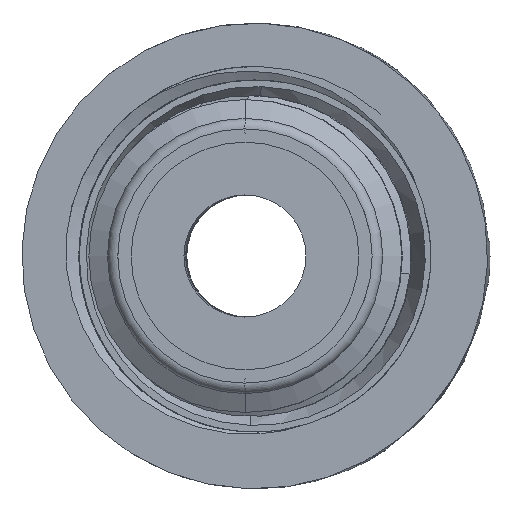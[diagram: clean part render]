
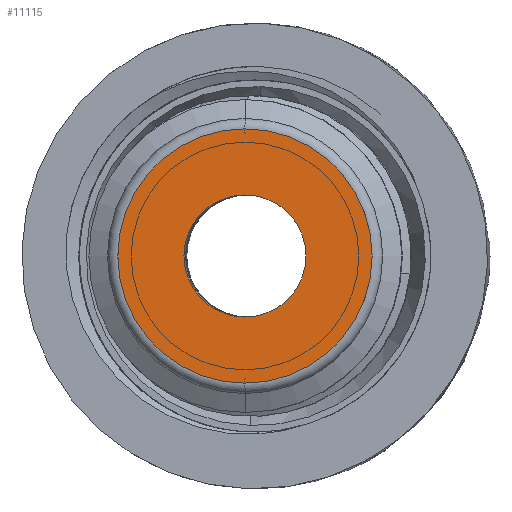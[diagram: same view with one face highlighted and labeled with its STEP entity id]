
A CAD part, left-side view. The second image highlights one B-rep face of the part: STEP entity #11115.
In plain terms, the highlighted planar face has unit normal (-1, 0.009, 0) as drawn and (1, 0, 0) by its records, which use the part's own axes.
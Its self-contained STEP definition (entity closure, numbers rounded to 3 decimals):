
#1137 = CIRCLE ( 'NONE', #4528, 8.125 ) ;
#1326 = FACE_OUTER_BOUND ( 'NONE', #3148, .T. ) ;
#1335 = ORIENTED_EDGE ( 'NONE', *, *, #11720, .T. ) ;
#1339 = AXIS2_PLACEMENT_3D ( 'NONE', #2388, #8872, #6158 ) ;
#1559 = VERTEX_POINT ( 'NONE', #10508 ) ;
#1811 = DIRECTION ( 'NONE',  ( 1., 0., 0. ) ) ;
#1817 = VERTEX_POINT ( 'NONE', #11107 ) ;
#1994 = ORIENTED_EDGE ( 'NONE', *, *, #2957, .T. ) ;
#2002 = CARTESIAN_POINT ( 'NONE',  ( 7., 0., 0. ) ) ;
#2388 = CARTESIAN_POINT ( 'NONE',  ( 7., 0., 0. ) ) ;
#2888 = EDGE_CURVE ( 'NONE', #3780, #1559, #3614, .T. ) ;
#2957 = EDGE_CURVE ( 'NONE', #1817, #11649, #6356, .T. ) ;
#3007 = AXIS2_PLACEMENT_3D ( 'NONE', #11338, #3880, #8730 ) ;
#3148 = EDGE_LOOP ( 'NONE', ( #1335, #1994 ) ) ;
#3211 = DIRECTION ( 'NONE',  ( 0., 0., -1. ) ) ;
#3331 = PLANE ( 'NONE',  #1339 ) ;
#3614 = CIRCLE ( 'NONE', #10487, 3.9 ) ;
#3780 = VERTEX_POINT ( 'NONE', #5669 ) ;
#3880 = DIRECTION ( 'NONE',  ( 1., 0., 0. ) ) ;
#4528 = AXIS2_PLACEMENT_3D ( 'NONE', #11090, #1811, #5599 ) ;
#5599 = DIRECTION ( 'NONE',  ( 0., 0., -1. ) ) ;
#5669 = CARTESIAN_POINT ( 'NONE',  ( 7., 0., -3.9 ) ) ;
#6158 = DIRECTION ( 'NONE',  ( 0., 0., -1. ) ) ;
#6356 = CIRCLE ( 'NONE', #3007, 8.125 ) ;
#6655 = DIRECTION ( 'NONE',  ( 1., 0., 0. ) ) ;
#7272 = CIRCLE ( 'NONE', #10604, 3.9 ) ;
#8081 = FACE_BOUND ( 'NONE', #11311, .T. ) ;
#8165 = ORIENTED_EDGE ( 'NONE', *, *, #10957, .F. ) ;
#8217 = ORIENTED_EDGE ( 'NONE', *, *, #2888, .F. ) ;
#8730 = DIRECTION ( 'NONE',  ( 0., 0., -1. ) ) ;
#8808 = CARTESIAN_POINT ( 'NONE',  ( 7., 0., 0. ) ) ;
#8872 = DIRECTION ( 'NONE',  ( 1., 0., 0. ) ) ;
#10040 = CARTESIAN_POINT ( 'NONE',  ( 7., 0., 8.125 ) ) ;
#10487 = AXIS2_PLACEMENT_3D ( 'NONE', #2002, #6655, #11581 ) ;
#10508 = CARTESIAN_POINT ( 'NONE',  ( 7., 0., 3.9 ) ) ;
#10604 = AXIS2_PLACEMENT_3D ( 'NONE', #8808, #11724, #3211 ) ;
#10957 = EDGE_CURVE ( 'NONE', #1559, #3780, #7272, .T. ) ;
#11090 = CARTESIAN_POINT ( 'NONE',  ( 7., 0., 0. ) ) ;
#11107 = CARTESIAN_POINT ( 'NONE',  ( 7., 0., -8.125 ) ) ;
#11115 = ADVANCED_FACE ( 'NONE', ( #1326, #8081 ), #3331, .T. ) ;
#11311 = EDGE_LOOP ( 'NONE', ( #8165, #8217 ) ) ;
#11338 = CARTESIAN_POINT ( 'NONE',  ( 7., 0., 0. ) ) ;
#11581 = DIRECTION ( 'NONE',  ( 0., 0., -1. ) ) ;
#11649 = VERTEX_POINT ( 'NONE', #10040 ) ;
#11720 = EDGE_CURVE ( 'NONE', #11649, #1817, #1137, .T. ) ;
#11724 = DIRECTION ( 'NONE',  ( 1., 0., 0. ) ) ;
